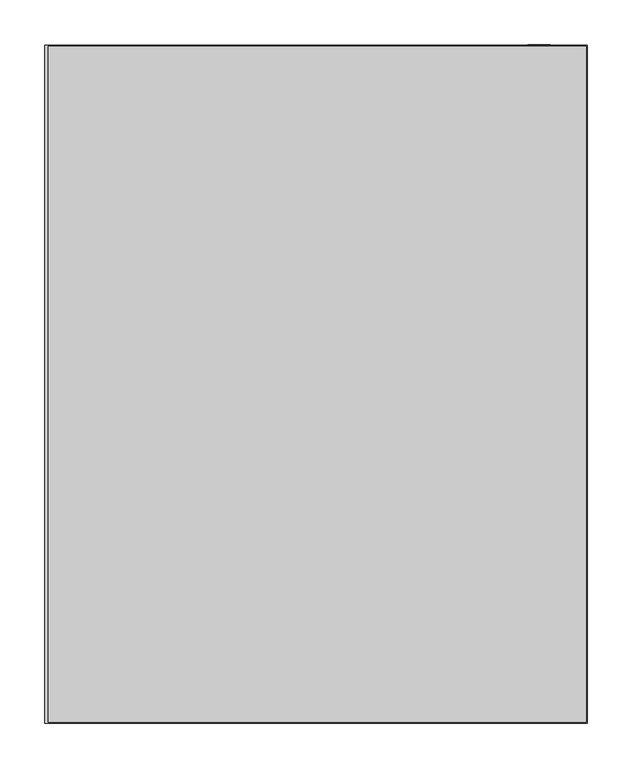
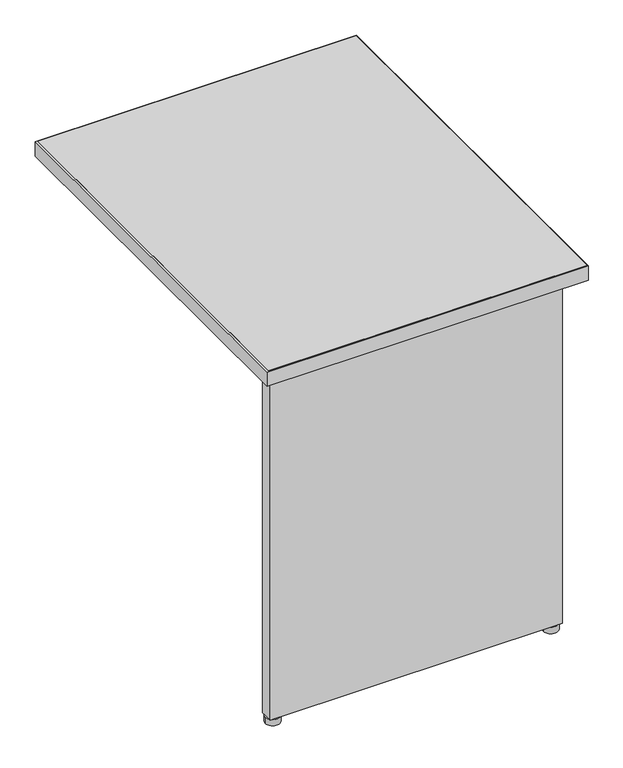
"""IFC4 building model written with IfcOpenShell, lengths in millimetres: furniture geometry, Steelcase - Kick Freestanding - Desk - Return - Partial Height Modesty Panel : 24D x 30W - Right."""

from ifc_helpers import new_model, si_unit, point, frame, frame_2d, origin, origin_with_axes, place, context, project, spatial, polyline, circle_curve, trimmed, segment, composite_curve, outline, extrude, source, transform, mapped, element, save


def furniture_02530bc2(model_context):
    return source(origin(), model_context, "Body", "SweptSolid", [
        extrude(outline(composite_curve([segment(trimmed(circle_curve(frame_2d((2107.4714425, -1283.4145152)), 13.97), [point((2121.4414425, -1283.4145152))], [point((2093.5014425, -1283.4145152))], False, "CARTESIAN"), True, "CONTINUOUS"), segment(trimmed(circle_curve(frame_2d((2107.4714425, -1283.4145152)), 13.97), [point((2093.5014425, -1283.4145152))], [point((2121.4414425, -1283.4145152))], False, "CARTESIAN"), True, "CONTINUOUS")], self_intersect=False)), origin_with_axes(), (0.0, 0.0, 1.0), 12.7),
        extrude(outline(composite_curve([segment(trimmed(circle_curve(frame_2d((1579.6594425, -1283.4145152)), 13.97), [point((1593.6294425, -1283.4145152))], [point((1565.6894425, -1283.4145152))], False, "CARTESIAN"), True, "CONTINUOUS"), segment(trimmed(circle_curve(frame_2d((1579.6594425, -1283.4145152)), 13.97), [point((1565.6894425, -1283.4145152))], [point((1593.6294425, -1283.4145152))], False, "CARTESIAN"), True, "CONTINUOUS")], self_intersect=False)), origin_with_axes(), (0.0, 0.0, 1.0), 12.7),
        extrude(outline(polyline([(2122.7114425, -1270.8669152), (2122.7114425, -1295.3525098), (1568.2294473, -1295.3525098), (1568.2294473, -1270.8669041), (1691.2670317, -1270.8669041), (1691.2670317, -1293.2951136), (1790.9874347, -1293.2951136), (1790.9874347, -1270.8669041), (1899.7248382, -1270.8669041), (1899.7248382, -1293.2951136), (1999.4452412, -1293.2951136), (1999.4452412, -1270.8669152), (2122.7114425, -1270.8669152)])), frame((0.0, 0.0, 12.7), z_axis=(0.0, 0.0, 1.0), x_axis=(1.0, 0.0, 0.0)), (0.0, 0.0, 1.0), 682.244),
        extrude(outline(polyline([(2097.3114424, -546.0525152), (2122.7114425, -546.0525152), (2122.7114425, -1270.8669152), (2097.3114424, -1270.8669152), (2097.3114424, -546.0525152)])), frame((0.0, 0.0, 390.144), z_axis=(0.0, 0.0, 1.0), x_axis=(1.0, 0.0, 0.0)), (0.0, 0.0, 1.0), 304.8),
        extrude(outline(polyline([(1558.5012257, -548.0845152), (2162.8688425, -548.0845152), (2162.8688425, -1307.5445152), (1558.5012257, -1307.5445152), (1558.5012257, -548.0845152)])), frame((0.0, 0.0, 694.944), z_axis=(0.0, 0.0, 1.0), x_axis=(1.0, 0.0, 0.0)), (0.0, 0.0, 1.0), 28.956),
        extrude(outline(polyline([(1554.2594425, -546.8145152), (2163.8594425, -546.8145152), (2163.8594425, -1308.8145152), (1554.2594425, -1308.8145152), (1554.2594425, -546.8145152)]), holes=[polyline([(1558.5012257, -548.0845152), (1558.5012257, -1307.5445152), (2162.8688425, -1307.5445152), (2162.8688425, -548.0845152), (1558.5012257, -548.0845152)])]), frame((0.0, 0.0, 694.944), z_axis=(0.0, 0.0, 1.0), x_axis=(1.0, 0.0, 0.0)), (0.0, 0.0, 1.0), 28.956),
    ])


if __name__ == "__main__":
    model = new_model("IFC4")
    model_context = context("Model", 3, world=origin())
    ifc_project = project(units=[si_unit("LENGTHUNIT", "METRE", prefix="MILLI")], contexts=[model_context])
    site = spatial("IfcSite", under=ifc_project)
    building = spatial("IfcBuilding", under=site)
    placement = place(None, origin())
    furniture_shape = furniture_02530bc2(model_context)
    element("IfcFurniture", 1, ObjectType="Steelcase - Kick Freestanding - Desk - Return - Partial Height Modesty Panel : 24D x 30W - Right", at=placement, inside=building, context=model_context, shape_type="MappedRepresentation", body=[
        mapped(furniture_shape, transform((0.0, 0.0, 0.0), x_axis=(1.0, 0.0, 0.0), y_axis=(0.0, 1.0, 0.0), z_axis=(0.0, 0.0, 1.0))),
    ])
    save(model, "model.ifc")
